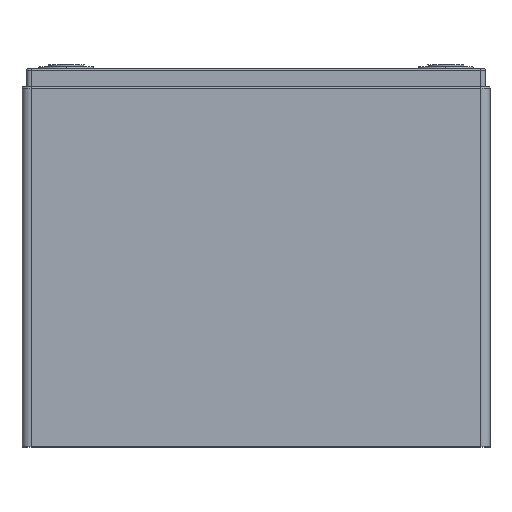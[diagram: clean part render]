
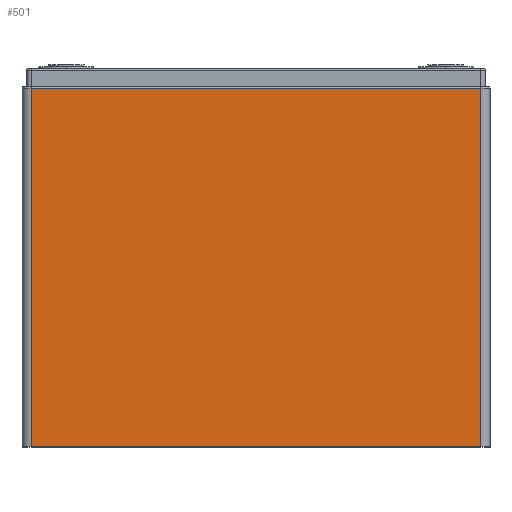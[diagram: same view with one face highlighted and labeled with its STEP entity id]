
A CAD part, top view. The second image highlights one B-rep face of the part: STEP entity #501.
In plain terms, the highlighted planar face has unit normal (0, 0, 1).
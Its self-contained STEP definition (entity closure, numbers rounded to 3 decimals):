
#41 = EDGE_CURVE ( 'NONE', #1497, #818, #462, .T. ) ;
#110 = DIRECTION ( 'NONE',  ( 0., -1., 0. ) ) ;
#186 = CARTESIAN_POINT ( 'NONE',  ( 5., 0., 0. ) ) ;
#225 = EDGE_CURVE ( 'NONE', #1274, #1002, #1202, .T. ) ;
#228 = CARTESIAN_POINT ( 'NONE',  ( 5., 199., 0. ) ) ;
#246 = DIRECTION ( 'NONE',  ( 0., -1., 0. ) ) ;
#391 = CARTESIAN_POINT ( 'NONE',  ( 255., 199., 0. ) ) ;
#433 = ORIENTED_EDGE ( 'NONE', *, *, #1009, .T. ) ;
#439 = DIRECTION ( 'NONE',  ( -1., 0., 0. ) ) ;
#462 = LINE ( 'NONE', #1327, #1335 ) ;
#501 = ADVANCED_FACE ( 'NONE', ( #1212 ), #1189, .F. ) ;
#512 = CARTESIAN_POINT ( 'NONE',  ( 5., 200., 0. ) ) ;
#525 = CARTESIAN_POINT ( 'NONE',  ( 255., 200., 0. ) ) ;
#650 = ORIENTED_EDGE ( 'NONE', *, *, #225, .T. ) ;
#651 = CARTESIAN_POINT ( 'NONE',  ( 255., 0., 0. ) ) ;
#818 = VERTEX_POINT ( 'NONE', #228 ) ;
#898 = LINE ( 'NONE', #1666, #1329 ) ;
#922 = EDGE_LOOP ( 'NONE', ( #946, #1417, #433, #650 ) ) ;
#946 = ORIENTED_EDGE ( 'NONE', *, *, #1541, .F. ) ;
#992 = CARTESIAN_POINT ( 'NONE',  ( 5., 0., 0. ) ) ;
#1002 = VERTEX_POINT ( 'NONE', #651 ) ;
#1009 = EDGE_CURVE ( 'NONE', #818, #1274, #898, .T. ) ;
#1132 = DIRECTION ( 'NONE',  ( 1., 0., 0. ) ) ;
#1189 = PLANE ( 'NONE',  #1556 ) ;
#1202 = LINE ( 'NONE', #992, #1340 ) ;
#1212 = FACE_OUTER_BOUND ( 'NONE', #922, .T. ) ;
#1274 = VERTEX_POINT ( 'NONE', #186 ) ;
#1318 = DIRECTION ( 'NONE',  ( -1., 0., 0. ) ) ;
#1325 = VECTOR ( 'NONE', #110, 1000. ) ;
#1327 = CARTESIAN_POINT ( 'NONE',  ( 5., 199., 0. ) ) ;
#1329 = VECTOR ( 'NONE', #246, 1000. ) ;
#1335 = VECTOR ( 'NONE', #439, 1000. ) ;
#1340 = VECTOR ( 'NONE', #1132, 1000. ) ;
#1417 = ORIENTED_EDGE ( 'NONE', *, *, #41, .T. ) ;
#1497 = VERTEX_POINT ( 'NONE', #391 ) ;
#1541 = EDGE_CURVE ( 'NONE', #1497, #1002, #1625, .T. ) ;
#1556 = AXIS2_PLACEMENT_3D ( 'NONE', #512, #1668, #1318 ) ;
#1625 = LINE ( 'NONE', #525, #1325 ) ;
#1666 = CARTESIAN_POINT ( 'NONE',  ( 5., 200., 0. ) ) ;
#1668 = DIRECTION ( 'NONE',  ( 0., 0., -1. ) ) ;
